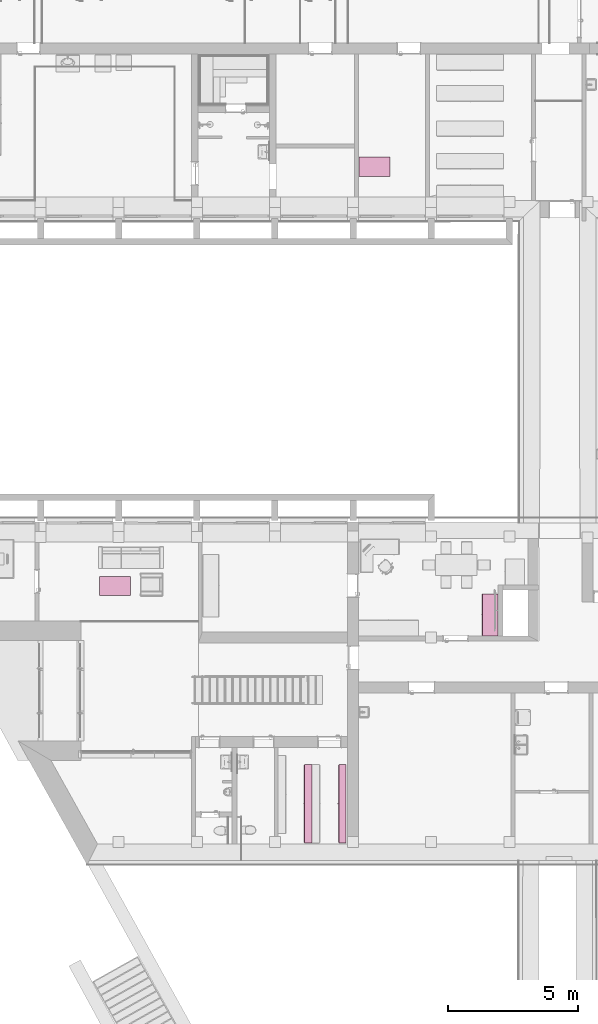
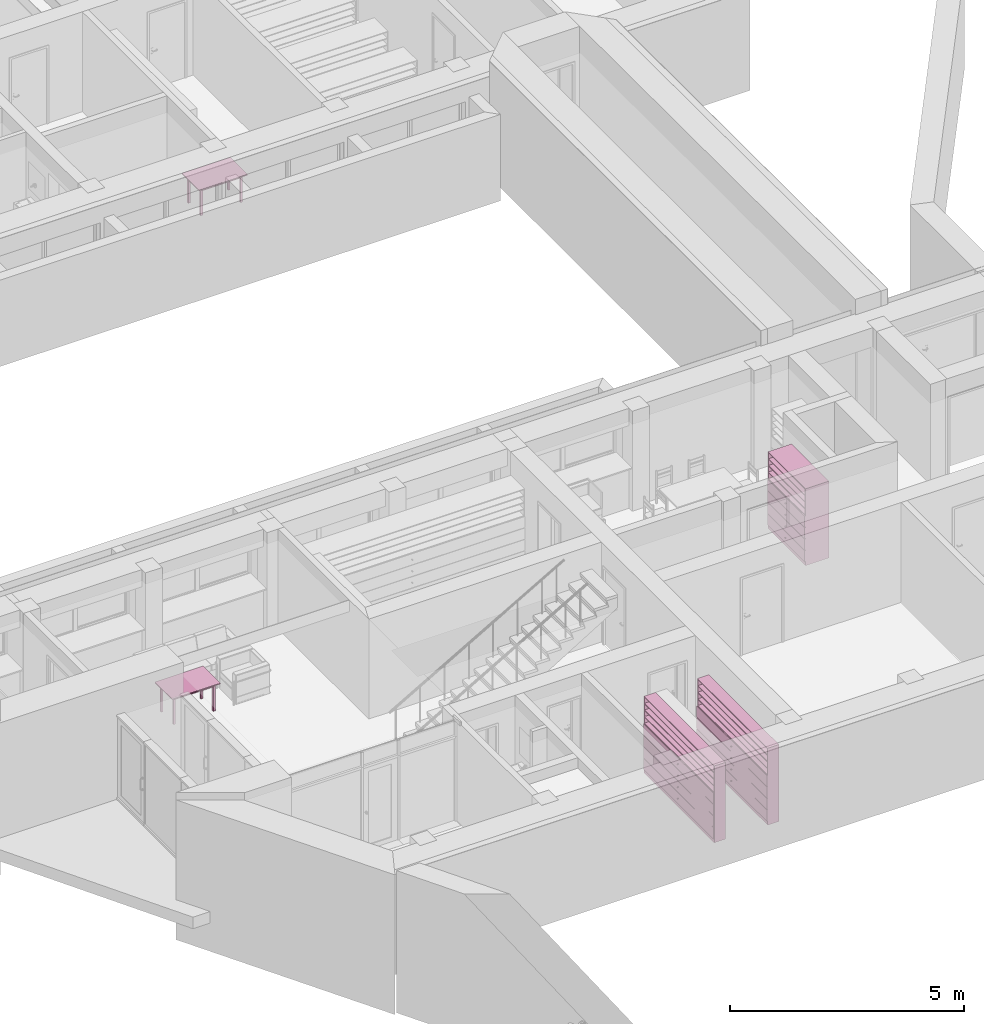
# One storey, part 92 of 127: 5 furnishings.
"""IFC2X3 building model written with IfcOpenShell, lengths in millimetres."""

from ifc_helpers import new_model, entity, si_unit, converted_unit, derived_unit, money_unit, direction, frame, origin_with_axes, place, context, subcontext, project, spatial, faceted_brep, source, transform, mapped, type_object, element, save


model = new_model("IFC2X3")

# Units and contexts
model_context = context("Model", 3, precision=1e-05, world=origin_with_axes(), true_north=direction((0.0, 1.0)))
body_context = subcontext(model_context, "Body", "Model", "MODEL_VIEW")
ifc_project = project(units=[si_unit("LENGTHUNIT", "METRE", prefix="MILLI"), si_unit("AREAUNIT", "SQUARE_METRE"), si_unit("VOLUMEUNIT", "CUBIC_METRE"), converted_unit("PLANEANGLEUNIT", "DEGREE", entity("IfcPlaneAngleMeasure", 0.0174532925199), si_unit("PLANEANGLEUNIT", "RADIAN"), dimensions=[0, 0, 0, 0, 0, 0, 0]), si_unit("SOLIDANGLEUNIT", "STERADIAN"), money_unit("EUR"), converted_unit("TIMEUNIT", "Year", entity("IfcTimeMeasure", 31556926.0), si_unit("TIMEUNIT", "SECOND"), dimensions=[0, 0, 1, 0, 0, 0, 0]), si_unit("MASSUNIT", "GRAM", prefix="KILO"), si_unit("THERMODYNAMICTEMPERATUREUNIT", "DEGREE_CELSIUS"), si_unit("LUMINOUSINTENSITYUNIT", "LUMEN"), si_unit("ENERGYUNIT", "JOULE", prefix="MEGA"), derived_unit("THERMALCONDUCTANCEUNIT", [(si_unit("POWERUNIT", "WATT"), 1), (si_unit("LENGTHUNIT", "METRE"), -1), (si_unit("THERMODYNAMICTEMPERATUREUNIT", "KELVIN"), -1)]), derived_unit("SPECIFICHEATCAPACITYUNIT", [(si_unit("ENERGYUNIT", "JOULE"), 1), (si_unit("MASSUNIT", "GRAM", prefix="KILO"), -1), (si_unit("THERMODYNAMICTEMPERATUREUNIT", "KELVIN"), -1)]), derived_unit("MASSDENSITYUNIT", [(si_unit("MASSUNIT", "GRAM", prefix="KILO"), 1), (si_unit("VOLUMEUNIT", "CUBIC_METRE"), -1)])], contexts=[model_context])

# Site, building, storey
site_placement = place(None, origin_with_axes())
site = spatial("IfcSite", under=ifc_project, at=site_placement, Name="Site", CompositionType="ELEMENT")
building_placement = place(site_placement, origin_with_axes())
building = spatial("IfcBuilding", under=site, at=building_placement, Name="Building", CompositionType="ELEMENT")
storey_placement = place(building_placement, origin_with_axes())
storey = spatial("IfcBuildingStorey", under=building, at=storey_placement, Name="1 KORRUS", CompositionType="ELEMENT", Elevation=0.0)

# Furnishings
furnishing_element_type_1 = type_object("IfcFurnishingElementType", Name="Model Element 2")
shared_shape_1 = source(origin_with_axes(), body_context, "Body", "Brep", [
    faceted_brep([(1600.0, 19.0, 0.0), (0.0, 19.0, 0.0), (0.0, 600.000000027, 0.0), (1600.0, 600.000000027, 0.0), (1600.0, 19.0, 100.0), (0.0, 19.0, 100.0), (0.0, 600.000000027, 100.0), (1600.0, 600.000000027, 100.0)], [[[0, 1, 2, 3]], [[1, 0, 4, 5]], [[2, 1, 5, 6]], [[3, 2, 6, 7]], [[0, 3, 7, 4]], [[5, 4, 7, 6]]]),
    faceted_brep([(19.0, 600.000000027, 119.0), (19.0, 581.000000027, 119.0), (19.0, 581.000000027, 1981.0), (19.0, 600.000000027, 1981.0), (1581.0, 600.000000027, 119.0), (1581.0, 581.000000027, 119.0), (1581.0, 581.000000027, 1981.0), (1581.0, 600.000000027, 1981.0)], [[[0, 1, 2, 3]], [[0, 4, 5, 1]], [[1, 5, 6, 2]], [[3, 2, 6, 7]], [[4, 0, 3, 7]], [[5, 4, 7, 6]]]),
    faceted_brep([(1600.0, 19.0, 100.0), (1581.0, 19.0, 100.0), (1581.0, 600.000000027, 100.0), (1600.0, 600.000000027, 100.0), (1600.0, 19.0, 2000.0), (1581.0, 19.0, 2000.0), (1581.0, 600.000000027, 2000.0), (1600.0, 600.000000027, 2000.0)], [[[0, 1, 2, 3]], [[1, 0, 4, 5]], [[2, 1, 5, 6]], [[3, 2, 6, 7]], [[0, 3, 7, 4]], [[5, 4, 7, 6]]]),
    faceted_brep([(19.0, 19.0, 100.0), (0.0, 19.0, 100.0), (0.0, 600.000000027, 100.0), (19.0, 600.000000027, 100.0), (19.0, 19.0, 2000.0), (0.0, 19.0, 2000.0), (0.0, 600.000000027, 2000.0), (19.0, 600.000000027, 2000.0)], [[[0, 1, 2, 3]], [[1, 0, 4, 5]], [[2, 1, 5, 6]], [[3, 2, 6, 7]], [[0, 3, 7, 4]], [[5, 4, 7, 6]]]),
    faceted_brep([(1581.0, 19.0, 100.0), (19.0, 19.0, 100.0), (19.0, 600.000000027, 100.0), (1581.0, 600.000000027, 100.0), (1581.0, 19.0, 119.0), (19.0, 19.0, 119.0), (19.0, 600.000000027, 119.0), (1581.0, 600.000000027, 119.0)], [[[0, 1, 2, 3]], [[1, 0, 4, 5]], [[2, 1, 5, 6]], [[3, 2, 6, 7]], [[0, 3, 7, 4]], [[5, 4, 7, 6]]]),
    faceted_brep([(1581.0, 19.0, 1981.0), (19.0, 19.0, 1981.0), (19.0, 600.000000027, 1981.0), (1581.0, 600.000000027, 1981.0), (1581.0, 19.0, 2000.0), (19.0, 19.0, 2000.0), (19.0, 600.000000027, 2000.0), (1581.0, 600.000000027, 2000.0)], [[[0, 1, 2, 3]], [[1, 0, 4, 5]], [[2, 1, 5, 6]], [[3, 2, 6, 7]], [[0, 3, 7, 4]], [[5, 4, 7, 6]]]),
    faceted_brep([(5.0, 19.0, 105.0), (1595.0, 19.0, 105.0), (1595.0, 0.0, 105.0), (5.0, 0.0, 105.0), (5.0, 19.0, 395.0), (1595.0, 19.0, 395.0), (1595.0, 0.0, 395.0), (5.0, 0.0, 395.0)], [[[0, 1, 2, 3]], [[0, 4, 5, 1]], [[1, 5, 6, 2]], [[3, 2, 6, 7]], [[4, 0, 3, 7]], [[5, 4, 7, 6]]]),
    faceted_brep([(810.392304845, 0.0, 244.0), (806.0, 0.0, 239.607695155), (800.0, 0.0, 238.0), (794.0, 0.0, 239.607695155), (789.607695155, 0.0, 244.0), (788.0, 0.0, 250.0), (789.607695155, 0.0, 256.0), (794.0, 0.0, 260.392304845), (800.0, 0.0, 262.0), (806.0, 0.0, 260.392304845), (810.392304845, 0.0, 256.0), (812.0, 0.0, 250.0), (810.392304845, -25.0, 244.0), (806.0, -25.0, 239.607695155), (800.0, -25.0, 238.0), (794.0, -25.0, 239.607695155), (789.607695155, -25.0, 244.0), (788.0, -25.0, 250.0), (789.607695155, -25.0, 256.0), (794.0, -25.0, 260.392304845), (800.0, -25.0, 262.0), (806.0, -25.0, 260.392304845), (810.392304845, -25.0, 256.0), (812.0, -25.0, 250.0)], [[[0, 1, 2, 3, 4, 5, 6, 7, 8, 9, 10, 11]], [[1, 0, 12, 13]], [[2, 1, 13, 14]], [[3, 2, 14, 15]], [[4, 3, 15, 16]], [[5, 4, 16, 17]], [[6, 5, 17, 18]], [[7, 6, 18, 19]], [[8, 7, 19, 20]], [[9, 8, 20, 21]], [[10, 9, 21, 22]], [[11, 10, 22, 23]], [[0, 11, 23, 12]], [[12, 23, 22, 21, 20, 19, 18, 17, 16, 15, 14, 13]]]),
    faceted_brep([(5.0, 19.0, 405.0), (1595.0, 19.0, 405.0), (1595.0, 0.0, 405.0), (5.0, 0.0, 405.0), (5.0, 19.0, 695.0), (1595.0, 19.0, 695.0), (1595.0, 0.0, 695.0), (5.0, 0.0, 695.0)], [[[0, 1, 2, 3]], [[0, 4, 5, 1]], [[1, 5, 6, 2]], [[3, 2, 6, 7]], [[4, 0, 3, 7]], [[5, 4, 7, 6]]]),
    faceted_brep([(810.392304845, 0.0, 544.0), (806.0, 0.0, 539.607695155), (800.0, 0.0, 538.0), (794.0, 0.0, 539.607695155), (789.607695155, 0.0, 544.0), (788.0, 0.0, 550.0), (789.607695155, 0.0, 556.0), (794.0, 0.0, 560.392304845), (800.0, 0.0, 562.0), (806.0, 0.0, 560.392304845), (810.392304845, 0.0, 556.0), (812.0, 0.0, 550.0), (810.392304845, -25.0, 544.0), (806.0, -25.0, 539.607695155), (800.0, -25.0, 538.0), (794.0, -25.0, 539.607695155), (789.607695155, -25.0, 544.0), (788.0, -25.0, 550.0), (789.607695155, -25.0, 556.0), (794.0, -25.0, 560.392304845), (800.0, -25.0, 562.0), (806.0, -25.0, 560.392304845), (810.392304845, -25.0, 556.0), (812.0, -25.0, 550.0)], [[[0, 1, 2, 3, 4, 5, 6, 7, 8, 9, 10, 11]], [[1, 0, 12, 13]], [[2, 1, 13, 14]], [[3, 2, 14, 15]], [[4, 3, 15, 16]], [[5, 4, 16, 17]], [[6, 5, 17, 18]], [[7, 6, 18, 19]], [[8, 7, 19, 20]], [[9, 8, 20, 21]], [[10, 9, 21, 22]], [[11, 10, 22, 23]], [[0, 11, 23, 12]], [[12, 23, 22, 21, 20, 19, 18, 17, 16, 15, 14, 13]]]),
    faceted_brep([(5.0, 19.0, 705.0), (1595.0, 19.0, 705.0), (1595.0, 0.0, 705.0), (5.0, 0.0, 705.0), (5.0, 19.0, 995.0), (1595.0, 19.0, 995.0), (1595.0, 0.0, 995.0), (5.0, 0.0, 995.0)], [[[0, 1, 2, 3]], [[0, 4, 5, 1]], [[1, 5, 6, 2]], [[3, 2, 6, 7]], [[4, 0, 3, 7]], [[5, 4, 7, 6]]]),
    faceted_brep([(810.392304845, 0.0, 844.0), (806.0, 0.0, 839.607695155), (800.0, 0.0, 838.0), (794.0, 0.0, 839.607695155), (789.607695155, 0.0, 844.0), (788.0, 0.0, 850.0), (789.607695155, 0.0, 856.0), (794.0, 0.0, 860.392304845), (800.0, 0.0, 862.0), (806.0, 0.0, 860.392304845), (810.392304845, 0.0, 856.0), (812.0, 0.0, 850.0), (810.392304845, -25.0, 844.0), (806.0, -25.0, 839.607695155), (800.0, -25.0, 838.0), (794.0, -25.0, 839.607695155), (789.607695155, -25.0, 844.0), (788.0, -25.0, 850.0), (789.607695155, -25.0, 856.0), (794.0, -25.0, 860.392304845), (800.0, -25.0, 862.0), (806.0, -25.0, 860.392304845), (810.392304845, -25.0, 856.0), (812.0, -25.0, 850.0)], [[[0, 1, 2, 3, 4, 5, 6, 7, 8, 9, 10, 11]], [[1, 0, 12, 13]], [[2, 1, 13, 14]], [[3, 2, 14, 15]], [[4, 3, 15, 16]], [[5, 4, 16, 17]], [[6, 5, 17, 18]], [[7, 6, 18, 19]], [[8, 7, 19, 20]], [[9, 8, 20, 21]], [[10, 9, 21, 22]], [[11, 10, 22, 23]], [[0, 11, 23, 12]], [[12, 23, 22, 21, 20, 19, 18, 17, 16, 15, 14, 13]]]),
    faceted_brep([(5.0, 19.0, 1005.0), (1595.0, 19.0, 1005.0), (1595.0, 0.0, 1005.0), (5.0, 0.0, 1005.0), (5.0, 19.0, 1295.0), (1595.0, 19.0, 1295.0), (1595.0, 0.0, 1295.0), (5.0, 0.0, 1295.0)], [[[0, 1, 2, 3]], [[0, 4, 5, 1]], [[1, 5, 6, 2]], [[3, 2, 6, 7]], [[4, 0, 3, 7]], [[5, 4, 7, 6]]]),
    faceted_brep([(810.392304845, 0.0, 1144.0), (806.0, 0.0, 1139.60769515), (800.0, 0.0, 1138.0), (794.0, 0.0, 1139.60769515), (789.607695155, 0.0, 1144.0), (788.0, 0.0, 1150.0), (789.607695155, 0.0, 1156.0), (794.0, 0.0, 1160.39230485), (800.0, 0.0, 1162.0), (806.0, 0.0, 1160.39230485), (810.392304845, 0.0, 1156.0), (812.0, 0.0, 1150.0), (810.392304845, -25.0, 1144.0), (806.0, -25.0, 1139.60769515), (800.0, -25.0, 1138.0), (794.0, -25.0, 1139.60769515), (789.607695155, -25.0, 1144.0), (788.0, -25.0, 1150.0), (789.607695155, -25.0, 1156.0), (794.0, -25.0, 1160.39230485), (800.0, -25.0, 1162.0), (806.0, -25.0, 1160.39230485), (810.392304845, -25.0, 1156.0), (812.0, -25.0, 1150.0)], [[[0, 1, 2, 3, 4, 5, 6, 7, 8, 9, 10, 11]], [[1, 0, 12, 13]], [[2, 1, 13, 14]], [[3, 2, 14, 15]], [[4, 3, 15, 16]], [[5, 4, 16, 17]], [[6, 5, 17, 18]], [[7, 6, 18, 19]], [[8, 7, 19, 20]], [[9, 8, 20, 21]], [[10, 9, 21, 22]], [[11, 10, 22, 23]], [[0, 11, 23, 12]], [[12, 23, 22, 21, 20, 19, 18, 17, 16, 15, 14, 13]]]),
    faceted_brep([(19.0, 19.0, 390.5), (1581.0, 19.0, 390.5), (1581.0, 19.0, 409.5), (19.0, 19.0, 409.5), (19.0, 581.000000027, 390.5), (1581.0, 581.000000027, 390.5), (1581.0, 581.000000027, 409.5), (19.0, 581.000000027, 409.5)], [[[0, 1, 2, 3]], [[0, 4, 5, 1]], [[1, 5, 6, 2]], [[3, 2, 6, 7]], [[4, 0, 3, 7]], [[5, 4, 7, 6]]]),
    faceted_brep([(19.0, 19.0, 690.5), (1581.0, 19.0, 690.5), (1581.0, 19.0, 709.5), (19.0, 19.0, 709.5), (19.0, 581.000000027, 690.5), (1581.0, 581.000000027, 690.5), (1581.0, 581.000000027, 709.5), (19.0, 581.000000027, 709.5)], [[[0, 1, 2, 3]], [[0, 4, 5, 1]], [[1, 5, 6, 2]], [[3, 2, 6, 7]], [[4, 0, 3, 7]], [[5, 4, 7, 6]]]),
    faceted_brep([(19.0, 19.0, 990.5), (1581.0, 19.0, 990.5), (1581.0, 19.0, 1009.5), (19.0, 19.0, 1009.5), (19.0, 581.000000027, 990.5), (1581.0, 581.000000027, 990.5), (1581.0, 581.000000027, 1009.5), (19.0, 581.000000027, 1009.5)], [[[0, 1, 2, 3]], [[0, 4, 5, 1]], [[1, 5, 6, 2]], [[3, 2, 6, 7]], [[4, 0, 3, 7]], [[5, 4, 7, 6]]]),
    faceted_brep([(19.0, 19.0, 1290.5), (1581.0, 19.0, 1290.5), (1581.0, 19.0, 1309.5), (19.0, 19.0, 1309.5), (19.0, 581.000000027, 1290.5), (1581.0, 581.000000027, 1290.5), (1581.0, 581.000000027, 1309.5), (19.0, 581.000000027, 1309.5)], [[[0, 1, 2, 3]], [[0, 4, 5, 1]], [[1, 5, 6, 2]], [[3, 2, 6, 7]], [[4, 0, 3, 7]], [[5, 4, 7, 6]]]),
    faceted_brep([(1581.0, 19.0, 1463.125), (19.0, 19.0, 1463.125), (19.0, 581.000000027, 1463.125), (1581.0, 581.000000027, 1463.125), (1581.0, 19.0, 1482.125), (19.0, 19.0, 1482.125), (19.0, 581.000000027, 1482.125), (1581.0, 581.000000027, 1482.125)], [[[0, 1, 2, 3]], [[1, 0, 4, 5]], [[2, 1, 5, 6]], [[3, 2, 6, 7]], [[0, 3, 7, 4]], [[5, 4, 7, 6]]]),
    faceted_brep([(1581.0, 19.0, 1635.75), (19.0, 19.0, 1635.75), (19.0, 581.000000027, 1635.75), (1581.0, 581.000000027, 1635.75), (1581.0, 19.0, 1654.75), (19.0, 19.0, 1654.75), (19.0, 581.000000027, 1654.75), (1581.0, 581.000000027, 1654.75)], [[[0, 1, 2, 3]], [[1, 0, 4, 5]], [[2, 1, 5, 6]], [[3, 2, 6, 7]], [[0, 3, 7, 4]], [[5, 4, 7, 6]]]),
    faceted_brep([(1581.0, 19.0, 1808.375), (19.0, 19.0, 1808.375), (19.0, 581.000000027, 1808.375), (1581.0, 581.000000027, 1808.375), (1581.0, 19.0, 1827.375), (19.0, 19.0, 1827.375), (19.0, 581.000000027, 1827.375), (1581.0, 581.000000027, 1827.375)], [[[0, 1, 2, 3]], [[1, 0, 4, 5]], [[2, 1, 5, 6]], [[3, 2, 6, 7]], [[0, 3, 7, 4]], [[5, 4, 7, 6]]]),
])
furnishing_placement = place(storey_placement, frame((35902.2895649, 44482.4232017, 0.0), z_axis=(0.0, 0.0, 1.0), x_axis=(0.0, -1.0, 0.0)))
element("IfcFurnishingElement", 1, at=furnishing_placement, inside=storey, type_object=furnishing_element_type_1, Name="FU - 003", context=body_context, shape_type="MappedRepresentation", body=[
    mapped(shared_shape_1, transform((0.0, 0.0, 0.0))),
])
furnishing_element_type_2 = type_object("IfcFurnishingElementType", Name="Model Element 24")
shared_shape_2 = source(origin_with_axes(), body_context, "Body", "Brep", [
    faceted_brep([(3000.0, 19.0, 0.0), (0.0, 19.0, 0.0), (0.0, 300.0, 0.0), (3000.0, 300.0, 0.0), (3000.0, 19.0, 100.0), (0.0, 19.0, 100.0), (0.0, 300.0, 100.0), (3000.0, 300.0, 100.0)], [[[0, 1, 2, 3]], [[1, 0, 4, 5]], [[2, 1, 5, 6]], [[3, 2, 6, 7]], [[0, 3, 7, 4]], [[5, 4, 7, 6]]]),
    faceted_brep([(19.0, 300.0, 119.0), (19.0, 281.0, 119.0), (19.0, 281.0, 1981.0), (19.0, 300.0, 1981.0), (2981.0, 300.0, 119.0), (2981.0, 281.0, 119.0), (2981.0, 281.0, 1981.0), (2981.0, 300.0, 1981.0)], [[[0, 1, 2, 3]], [[0, 4, 5, 1]], [[1, 5, 6, 2]], [[3, 2, 6, 7]], [[4, 0, 3, 7]], [[5, 4, 7, 6]]]),
    faceted_brep([(3000.0, 19.0, 100.0), (2981.0, 19.0, 100.0), (2981.0, 300.0, 100.0), (3000.0, 300.0, 100.0), (3000.0, 19.0, 2000.0), (2981.0, 19.0, 2000.0), (2981.0, 300.0, 2000.0), (3000.0, 300.0, 2000.0)], [[[0, 1, 2, 3]], [[1, 0, 4, 5]], [[2, 1, 5, 6]], [[3, 2, 6, 7]], [[0, 3, 7, 4]], [[5, 4, 7, 6]]]),
    faceted_brep([(19.0, 19.0, 100.0), (0.0, 19.0, 100.0), (0.0, 300.0, 100.0), (19.0, 300.0, 100.0), (19.0, 19.0, 2000.0), (0.0, 19.0, 2000.0), (0.0, 300.0, 2000.0), (19.0, 300.0, 2000.0)], [[[0, 1, 2, 3]], [[1, 0, 4, 5]], [[2, 1, 5, 6]], [[3, 2, 6, 7]], [[0, 3, 7, 4]], [[5, 4, 7, 6]]]),
    faceted_brep([(2981.0, 19.0, 100.0), (19.0, 19.0, 100.0), (19.0, 300.0, 100.0), (2981.0, 300.0, 100.0), (2981.0, 19.0, 119.0), (19.0, 19.0, 119.0), (19.0, 300.0, 119.0), (2981.0, 300.0, 119.0)], [[[0, 1, 2, 3]], [[1, 0, 4, 5]], [[2, 1, 5, 6]], [[3, 2, 6, 7]], [[0, 3, 7, 4]], [[5, 4, 7, 6]]]),
    faceted_brep([(2981.0, 19.0, 1981.0), (19.0, 19.0, 1981.0), (19.0, 300.0, 1981.0), (2981.0, 300.0, 1981.0), (2981.0, 19.0, 2000.0), (19.0, 19.0, 2000.0), (19.0, 300.0, 2000.0), (2981.0, 300.0, 2000.0)], [[[0, 1, 2, 3]], [[1, 0, 4, 5]], [[2, 1, 5, 6]], [[3, 2, 6, 7]], [[0, 3, 7, 4]], [[5, 4, 7, 6]]]),
    faceted_brep([(5.0, 19.0, 105.0), (2995.0, 19.0, 105.0), (2995.0, 0.0, 105.0), (5.0, 0.0, 105.0), (5.0, 19.0, 395.0), (2995.0, 19.0, 395.0), (2995.0, 0.0, 395.0), (5.0, 0.0, 395.0)], [[[0, 1, 2, 3]], [[0, 4, 5, 1]], [[1, 5, 6, 2]], [[3, 2, 6, 7]], [[4, 0, 3, 7]], [[5, 4, 7, 6]]]),
    faceted_brep([(1510.39230485, 0.0, 244.0), (1506.0, 0.0, 239.607695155), (1500.0, 0.0, 238.0), (1494.0, 0.0, 239.607695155), (1489.60769515, 0.0, 244.0), (1488.0, 0.0, 250.0), (1489.60769515, 0.0, 256.0), (1494.0, 0.0, 260.392304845), (1500.0, 0.0, 262.0), (1506.0, 0.0, 260.392304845), (1510.39230485, 0.0, 256.0), (1512.0, 0.0, 250.0), (1510.39230485, -25.0, 244.0), (1506.0, -25.0, 239.607695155), (1500.0, -25.0, 238.0), (1494.0, -25.0, 239.607695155), (1489.60769515, -25.0, 244.0), (1488.0, -25.0, 250.0), (1489.60769515, -25.0, 256.0), (1494.0, -25.0, 260.392304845), (1500.0, -25.0, 262.0), (1506.0, -25.0, 260.392304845), (1510.39230485, -25.0, 256.0), (1512.0, -25.0, 250.0)], [[[0, 1, 2, 3, 4, 5, 6, 7, 8, 9, 10, 11]], [[1, 0, 12, 13]], [[2, 1, 13, 14]], [[3, 2, 14, 15]], [[4, 3, 15, 16]], [[5, 4, 16, 17]], [[6, 5, 17, 18]], [[7, 6, 18, 19]], [[8, 7, 19, 20]], [[9, 8, 20, 21]], [[10, 9, 21, 22]], [[11, 10, 22, 23]], [[0, 11, 23, 12]], [[12, 23, 22, 21, 20, 19, 18, 17, 16, 15, 14, 13]]]),
    faceted_brep([(5.0, 19.0, 405.0), (2995.0, 19.0, 405.0), (2995.0, 0.0, 405.0), (5.0, 0.0, 405.0), (5.0, 19.0, 695.0), (2995.0, 19.0, 695.0), (2995.0, 0.0, 695.0), (5.0, 0.0, 695.0)], [[[0, 1, 2, 3]], [[0, 4, 5, 1]], [[1, 5, 6, 2]], [[3, 2, 6, 7]], [[4, 0, 3, 7]], [[5, 4, 7, 6]]]),
    faceted_brep([(1510.39230485, 0.0, 544.0), (1506.0, 0.0, 539.607695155), (1500.0, 0.0, 538.0), (1494.0, 0.0, 539.607695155), (1489.60769515, 0.0, 544.0), (1488.0, 0.0, 550.0), (1489.60769515, 0.0, 556.0), (1494.0, 0.0, 560.392304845), (1500.0, 0.0, 562.0), (1506.0, 0.0, 560.392304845), (1510.39230485, 0.0, 556.0), (1512.0, 0.0, 550.0), (1510.39230485, -25.0, 544.0), (1506.0, -25.0, 539.607695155), (1500.0, -25.0, 538.0), (1494.0, -25.0, 539.607695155), (1489.60769515, -25.0, 544.0), (1488.0, -25.0, 550.0), (1489.60769515, -25.0, 556.0), (1494.0, -25.0, 560.392304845), (1500.0, -25.0, 562.0), (1506.0, -25.0, 560.392304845), (1510.39230485, -25.0, 556.0), (1512.0, -25.0, 550.0)], [[[0, 1, 2, 3, 4, 5, 6, 7, 8, 9, 10, 11]], [[1, 0, 12, 13]], [[2, 1, 13, 14]], [[3, 2, 14, 15]], [[4, 3, 15, 16]], [[5, 4, 16, 17]], [[6, 5, 17, 18]], [[7, 6, 18, 19]], [[8, 7, 19, 20]], [[9, 8, 20, 21]], [[10, 9, 21, 22]], [[11, 10, 22, 23]], [[0, 11, 23, 12]], [[12, 23, 22, 21, 20, 19, 18, 17, 16, 15, 14, 13]]]),
    faceted_brep([(5.0, 19.0, 705.0), (2995.0, 19.0, 705.0), (2995.0, 0.0, 705.0), (5.0, 0.0, 705.0), (5.0, 19.0, 995.0), (2995.0, 19.0, 995.0), (2995.0, 0.0, 995.0), (5.0, 0.0, 995.0)], [[[0, 1, 2, 3]], [[0, 4, 5, 1]], [[1, 5, 6, 2]], [[3, 2, 6, 7]], [[4, 0, 3, 7]], [[5, 4, 7, 6]]]),
    faceted_brep([(1510.39230485, 0.0, 844.0), (1506.0, 0.0, 839.607695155), (1500.0, 0.0, 838.0), (1494.0, 0.0, 839.607695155), (1489.60769515, 0.0, 844.0), (1488.0, 0.0, 850.0), (1489.60769515, 0.0, 856.0), (1494.0, 0.0, 860.392304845), (1500.0, 0.0, 862.0), (1506.0, 0.0, 860.392304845), (1510.39230485, 0.0, 856.0), (1512.0, 0.0, 850.0), (1510.39230485, -25.0, 844.0), (1506.0, -25.0, 839.607695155), (1500.0, -25.0, 838.0), (1494.0, -25.0, 839.607695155), (1489.60769515, -25.0, 844.0), (1488.0, -25.0, 850.0), (1489.60769515, -25.0, 856.0), (1494.0, -25.0, 860.392304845), (1500.0, -25.0, 862.0), (1506.0, -25.0, 860.392304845), (1510.39230485, -25.0, 856.0), (1512.0, -25.0, 850.0)], [[[0, 1, 2, 3, 4, 5, 6, 7, 8, 9, 10, 11]], [[1, 0, 12, 13]], [[2, 1, 13, 14]], [[3, 2, 14, 15]], [[4, 3, 15, 16]], [[5, 4, 16, 17]], [[6, 5, 17, 18]], [[7, 6, 18, 19]], [[8, 7, 19, 20]], [[9, 8, 20, 21]], [[10, 9, 21, 22]], [[11, 10, 22, 23]], [[0, 11, 23, 12]], [[12, 23, 22, 21, 20, 19, 18, 17, 16, 15, 14, 13]]]),
    faceted_brep([(5.0, 19.0, 1005.0), (2995.0, 19.0, 1005.0), (2995.0, 0.0, 1005.0), (5.0, 0.0, 1005.0), (5.0, 19.0, 1295.0), (2995.0, 19.0, 1295.0), (2995.0, 0.0, 1295.0), (5.0, 0.0, 1295.0)], [[[0, 1, 2, 3]], [[0, 4, 5, 1]], [[1, 5, 6, 2]], [[3, 2, 6, 7]], [[4, 0, 3, 7]], [[5, 4, 7, 6]]]),
    faceted_brep([(1510.39230485, 0.0, 1144.0), (1506.0, 0.0, 1139.60769515), (1500.0, 0.0, 1138.0), (1494.0, 0.0, 1139.60769515), (1489.60769515, 0.0, 1144.0), (1488.0, 0.0, 1150.0), (1489.60769515, 0.0, 1156.0), (1494.0, 0.0, 1160.39230485), (1500.0, 0.0, 1162.0), (1506.0, 0.0, 1160.39230485), (1510.39230485, 0.0, 1156.0), (1512.0, 0.0, 1150.0), (1510.39230485, -25.0, 1144.0), (1506.0, -25.0, 1139.60769515), (1500.0, -25.0, 1138.0), (1494.0, -25.0, 1139.60769515), (1489.60769515, -25.0, 1144.0), (1488.0, -25.0, 1150.0), (1489.60769515, -25.0, 1156.0), (1494.0, -25.0, 1160.39230485), (1500.0, -25.0, 1162.0), (1506.0, -25.0, 1160.39230485), (1510.39230485, -25.0, 1156.0), (1512.0, -25.0, 1150.0)], [[[0, 1, 2, 3, 4, 5, 6, 7, 8, 9, 10, 11]], [[1, 0, 12, 13]], [[2, 1, 13, 14]], [[3, 2, 14, 15]], [[4, 3, 15, 16]], [[5, 4, 16, 17]], [[6, 5, 17, 18]], [[7, 6, 18, 19]], [[8, 7, 19, 20]], [[9, 8, 20, 21]], [[10, 9, 21, 22]], [[11, 10, 22, 23]], [[0, 11, 23, 12]], [[12, 23, 22, 21, 20, 19, 18, 17, 16, 15, 14, 13]]]),
    faceted_brep([(19.0, 19.0, 390.5), (2981.0, 19.0, 390.5), (2981.0, 19.0, 409.5), (19.0, 19.0, 409.5), (19.0, 281.0, 390.5), (2981.0, 281.0, 390.5), (2981.0, 281.0, 409.5), (19.0, 281.0, 409.5)], [[[0, 1, 2, 3]], [[0, 4, 5, 1]], [[1, 5, 6, 2]], [[3, 2, 6, 7]], [[4, 0, 3, 7]], [[5, 4, 7, 6]]]),
    faceted_brep([(19.0, 19.0, 690.5), (2981.0, 19.0, 690.5), (2981.0, 19.0, 709.5), (19.0, 19.0, 709.5), (19.0, 281.0, 690.5), (2981.0, 281.0, 690.5), (2981.0, 281.0, 709.5), (19.0, 281.0, 709.5)], [[[0, 1, 2, 3]], [[0, 4, 5, 1]], [[1, 5, 6, 2]], [[3, 2, 6, 7]], [[4, 0, 3, 7]], [[5, 4, 7, 6]]]),
    faceted_brep([(19.0, 19.0, 990.5), (2981.0, 19.0, 990.5), (2981.0, 19.0, 1009.5), (19.0, 19.0, 1009.5), (19.0, 281.0, 990.5), (2981.0, 281.0, 990.5), (2981.0, 281.0, 1009.5), (19.0, 281.0, 1009.5)], [[[0, 1, 2, 3]], [[0, 4, 5, 1]], [[1, 5, 6, 2]], [[3, 2, 6, 7]], [[4, 0, 3, 7]], [[5, 4, 7, 6]]]),
    faceted_brep([(19.0, 19.0, 1290.5), (2981.0, 19.0, 1290.5), (2981.0, 19.0, 1309.5), (19.0, 19.0, 1309.5), (19.0, 281.0, 1290.5), (2981.0, 281.0, 1290.5), (2981.0, 281.0, 1309.5), (19.0, 281.0, 1309.5)], [[[0, 1, 2, 3]], [[0, 4, 5, 1]], [[1, 5, 6, 2]], [[3, 2, 6, 7]], [[4, 0, 3, 7]], [[5, 4, 7, 6]]]),
    faceted_brep([(2981.0, 19.0, 1463.125), (19.0, 19.0, 1463.125), (19.0, 281.0, 1463.125), (2981.0, 281.0, 1463.125), (2981.0, 19.0, 1482.125), (19.0, 19.0, 1482.125), (19.0, 281.0, 1482.125), (2981.0, 281.0, 1482.125)], [[[0, 1, 2, 3]], [[1, 0, 4, 5]], [[2, 1, 5, 6]], [[3, 2, 6, 7]], [[0, 3, 7, 4]], [[5, 4, 7, 6]]]),
    faceted_brep([(2981.0, 19.0, 1635.75), (19.0, 19.0, 1635.75), (19.0, 281.0, 1635.75), (2981.0, 281.0, 1635.75), (2981.0, 19.0, 1654.75), (19.0, 19.0, 1654.75), (19.0, 281.0, 1654.75), (2981.0, 281.0, 1654.75)], [[[0, 1, 2, 3]], [[1, 0, 4, 5]], [[2, 1, 5, 6]], [[3, 2, 6, 7]], [[0, 3, 7, 4]], [[5, 4, 7, 6]]]),
    faceted_brep([(2981.0, 19.0, 1808.375), (19.0, 19.0, 1808.375), (19.0, 281.0, 1808.375), (2981.0, 281.0, 1808.375), (2981.0, 19.0, 1827.375), (19.0, 19.0, 1827.375), (19.0, 281.0, 1827.375), (2981.0, 281.0, 1827.375)], [[[0, 1, 2, 3]], [[1, 0, 4, 5]], [[2, 1, 5, 6]], [[3, 2, 6, 7]], [[0, 3, 7, 4]], [[5, 4, 7, 6]]]),
])
for number, where, z_axis, x_axis, name in (
    (2, (29065.5369183, 37930.7778883, 0.0), (0.0, 0.0, 1.0), (0.0, -1.0, 0.0), "FU - 003"),
    (3, (30380.4274709, 37930.7778883, 0.0), (0.0, 0.0, 1.0), (0.0, -1.0, 0.0), "FU - 003"),
):
    element("IfcFurnishingElement", number, at=place(storey_placement, frame(where, z_axis=z_axis, x_axis=x_axis)), inside=storey, type_object=furnishing_element_type_2, Name=name, context=body_context, shape_type="MappedRepresentation", body=[
        mapped(shared_shape_2, transform((0.0, 0.0, 0.0))),
    ])
furnishing_element_type_3 = type_object("IfcFurnishingElementType", Name="Model Element 19")
shared_shape_3 = source(origin_with_axes(), body_context, "Body", "Brep", [
    faceted_brep([(130.0, 80.0, 0.0), (80.0, 80.0, 0.0), (80.0, 130.0, 0.0), (130.0, 130.0, 0.0), (130.0, 80.0, 715.0), (80.0, 80.0, 715.0), (80.0, 130.0, 715.0), (130.0, 130.0, 715.0)], [[[0, 1, 2, 3]], [[1, 0, 4, 5]], [[2, 1, 5, 6]], [[3, 2, 6, 7]], [[0, 3, 7, 4]], [[5, 4, 7, 6]]]),
    faceted_brep([(1110.0, 80.0, 0.0), (1060.0, 80.0, 0.0), (1060.0, 130.0, 0.0), (1110.0, 130.0, 0.0), (1110.0, 80.0, 715.0), (1060.0, 80.0, 715.0), (1060.0, 130.0, 715.0), (1110.0, 130.0, 715.0)], [[[0, 1, 2, 3]], [[1, 0, 4, 5]], [[2, 1, 5, 6]], [[3, 2, 6, 7]], [[0, 3, 7, 4]], [[5, 4, 7, 6]]]),
    faceted_brep([(130.0, 610.0, 0.0), (80.0, 610.0, 0.0), (80.0, 660.0, 0.0), (130.0, 660.0, 0.0), (130.0, 610.0, 715.0), (80.0, 610.0, 715.0), (80.0, 660.0, 715.0), (130.0, 660.0, 715.0)], [[[0, 1, 2, 3]], [[1, 0, 4, 5]], [[2, 1, 5, 6]], [[3, 2, 6, 7]], [[0, 3, 7, 4]], [[5, 4, 7, 6]]]),
    faceted_brep([(1110.0, 610.0, 0.0), (1060.0, 610.0, 0.0), (1060.0, 660.0, 0.0), (1110.0, 660.0, 0.0), (1110.0, 610.0, 715.0), (1060.0, 610.0, 715.0), (1060.0, 660.0, 715.0), (1110.0, 660.0, 715.0)], [[[0, 1, 2, 3]], [[1, 0, 4, 5]], [[2, 1, 5, 6]], [[3, 2, 6, 7]], [[0, 3, 7, 4]], [[5, 4, 7, 6]]]),
    faceted_brep([(1190.0, 0.0, 715.0), (0.0, 0.0, 715.0), (0.0, 740.0, 715.0), (1190.0, 740.0, 715.0), (1190.0, 0.0, 740.0), (0.0, 0.0, 740.0), (0.0, 740.0, 740.0), (1190.0, 740.0, 740.0)], [[[0, 1, 2, 3]], [[1, 0, 4, 5]], [[2, 1, 5, 6]], [[3, 2, 6, 7]], [[0, 3, 7, 4]], [[5, 4, 7, 6]]]),
    faceted_brep([(130.0, 105.0, 615.0), (1060.0, 105.0, 615.0), (1060.0, 105.0, 715.0), (130.0, 105.0, 715.0), (130.0, 130.0, 615.0), (155.0, 130.0, 615.0), (155.0, 155.0, 615.0), (1035.0, 155.0, 615.0), (1035.0, 130.0, 615.0), (1060.0, 130.0, 615.0), (1060.0, 130.0, 715.0), (1035.0, 130.0, 715.0), (1035.0, 155.0, 715.0), (155.0, 155.0, 715.0), (155.0, 130.0, 715.0), (130.0, 130.0, 715.0)], [[[0, 1, 2, 3]], [[0, 4, 5, 6, 7, 8, 9, 1]], [[1, 9, 10, 2]], [[3, 2, 10, 11, 12, 13, 14, 15]], [[4, 0, 3, 15]], [[5, 4, 15, 14]], [[6, 5, 14, 13]], [[7, 6, 13, 12]], [[8, 7, 12, 11]], [[9, 8, 11, 10]]]),
    faceted_brep([(155.0, 130.0, 615.0), (105.0, 130.0, 615.0), (105.0, 610.0, 615.0), (155.0, 610.0, 615.0), (155.0, 130.0, 715.0), (105.0, 130.0, 715.0), (105.0, 610.0, 715.0), (155.0, 610.0, 715.0)], [[[0, 1, 2, 3]], [[1, 0, 4, 5]], [[2, 1, 5, 6]], [[3, 2, 6, 7]], [[0, 3, 7, 4]], [[5, 4, 7, 6]]]),
    faceted_brep([(1060.0, 635.0, 615.0), (130.0, 635.0, 615.0), (130.0, 635.0, 715.0), (1060.0, 635.0, 715.0), (1060.0, 610.0, 615.0), (1035.0, 610.0, 615.0), (1035.0, 585.0, 615.0), (155.0, 585.0, 615.0), (155.0, 610.0, 615.0), (130.0, 610.0, 615.0), (130.0, 610.0, 715.0), (155.0, 610.0, 715.0), (155.0, 585.0, 715.0), (1035.0, 585.0, 715.0), (1035.0, 610.0, 715.0), (1060.0, 610.0, 715.0)], [[[0, 1, 2, 3]], [[0, 4, 5, 6, 7, 8, 9, 1]], [[1, 9, 10, 2]], [[3, 2, 10, 11, 12, 13, 14, 15]], [[4, 0, 3, 15]], [[5, 4, 15, 14]], [[6, 5, 14, 13]], [[7, 6, 13, 12]], [[8, 7, 12, 11]], [[9, 8, 11, 10]]]),
    faceted_brep([(1035.0, 610.0, 615.0), (1085.0, 610.0, 615.0), (1085.0, 130.0, 615.0), (1035.0, 130.0, 615.0), (1035.0, 610.0, 715.0), (1085.0, 610.0, 715.0), (1085.0, 130.0, 715.0), (1035.0, 130.0, 715.0)], [[[0, 1, 2, 3]], [[1, 0, 4, 5]], [[2, 1, 5, 6]], [[3, 2, 6, 7]], [[0, 3, 7, 4]], [[5, 4, 7, 6]]]),
])
for number, where, z_axis, x_axis, name in (
    (4, (21213.781829, 44424.523978, 0.0), (0.0, 0.0, 1.0), (1.0, 0.0, 0.0), "FU - 017"),
    (5, (31175.0126598, 60519.831778, 0.0), (0.0, 0.0, 1.0), (1.0, 0.0, 0.0), "FU - 017"),
):
    element("IfcFurnishingElement", number, at=place(storey_placement, frame(where, z_axis=z_axis, x_axis=x_axis)), inside=storey, type_object=furnishing_element_type_3, Name=name, context=body_context, shape_type="MappedRepresentation", body=[
        mapped(shared_shape_3, transform((0.0, 0.0, 0.0))),
    ])

save(model, "model.ifc")
